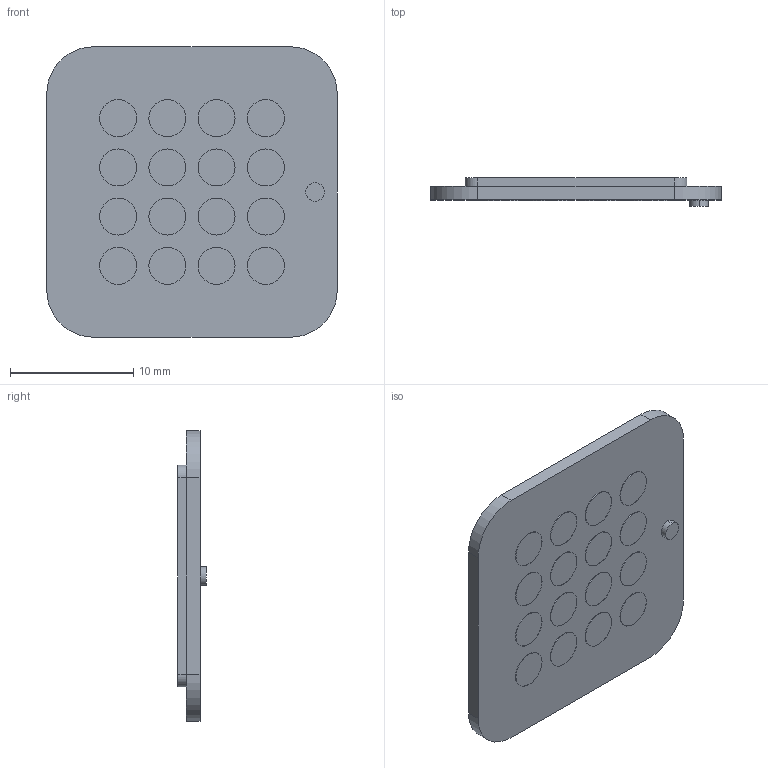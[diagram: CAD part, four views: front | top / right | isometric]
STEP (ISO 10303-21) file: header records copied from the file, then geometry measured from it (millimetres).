
FILE_DESCRIPTION((''),'2;1');
FILE_NAME('0_CONNECT_PIN_BRACKET_16_1_1_1_','2022-05-25T17:27:39',('Administrator'),(''),'CREO PARAMETRIC BY PTC INC, 2018400','CREO PARAMETRIC BY PTC INC, 2018400','');
FILE_SCHEMA(('CONFIG_CONTROL_DESIGN'));
Length unit declared in the file: millimetre
Products named in the file (1): 0_CONNECT_PIN_BRACKET_16_1_1_1_
Bounding box: 23.6 x 2.3 x 23.6 mm (x, y, z)
Volume: 827.5 mm3; surface area: 1286.8 mm2
Topology: 1 solids, 17 shells, 262 faces, 534 edges, 324 vertices
Faces by surface type: cylinder 106, cone 96, plane 60
Entity records: 6968 total; most frequent: DIRECTION 1366, CARTESIAN_POINT 1120, ORIENTED_EDGE 1068, AXIS2_PLACEMENT_3D 570, EDGE_CURVE 534, VERTEX_POINT 324, EDGE_LOOP 312, CIRCLE 308
